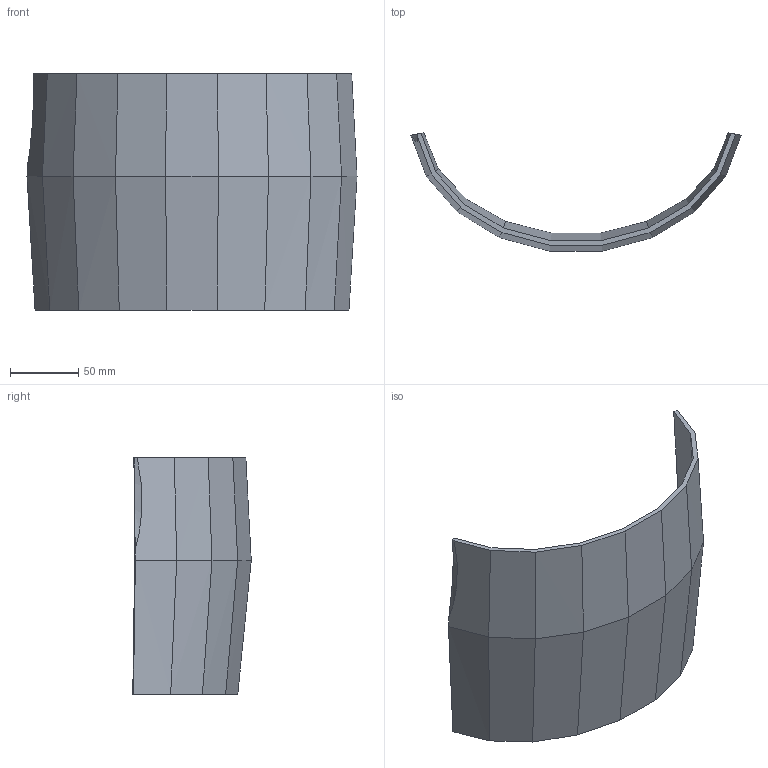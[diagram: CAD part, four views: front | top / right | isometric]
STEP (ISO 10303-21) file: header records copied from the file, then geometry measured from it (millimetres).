
FILE_DESCRIPTION(('Open CASCADE Model'),'2;1');
FILE_NAME('Open CASCADE Shape Model','2026-09-19T23:46:39',('Author'),( 'Open CASCADE'),'Open CASCADE STEP processor 7.9','Open CASCADE 7.9' ,'Unknown');
FILE_SCHEMA(('AUTOMOTIVE_DESIGN { 1 0 10303 214 1 1 1 1 }'));
Length unit declared in the file: millimetre
Products named in the file (1): Open CASCADE STEP translator 7.9 40
Bounding box: 241.63 x 86.7 x 173 mm (x, y, z)
Volume: 182429.2 mm3; surface area: 109524.9 mm2
Topology: 1 solids, 1 shells, 43 faces, 103 edges, 62 vertices
Faces by surface type: bspline 41, plane 2
Entity records: 2896 total; most frequent: CARTESIAN_POINT 1059, DIRECTION 230, LINE 224, VECTOR 224, ORIENTED_EDGE 206, PCURVE 206, DEFINITIONAL_REPRESENTATION 206, EDGE_CURVE 103
